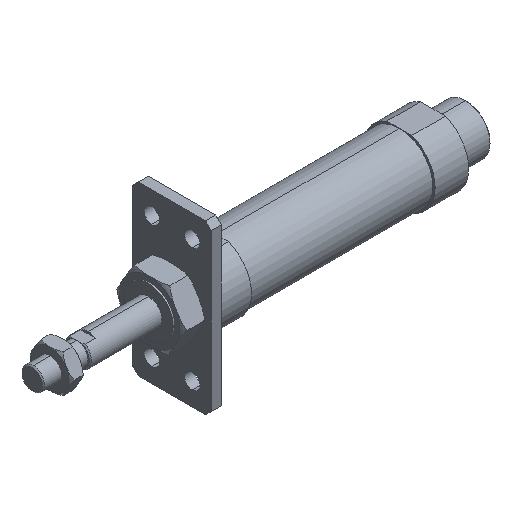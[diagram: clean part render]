
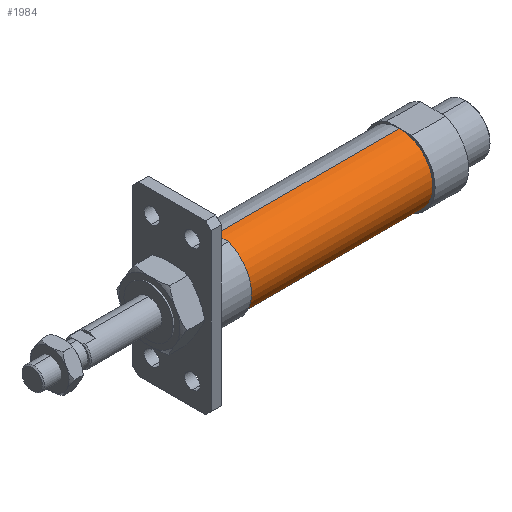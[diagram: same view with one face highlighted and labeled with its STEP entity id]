
A CAD part, isometric view. The second image highlights one B-rep face of the part: STEP entity #1984.
In plain terms, the highlighted cylindrical face has radius 15 mm (diameter 30 mm), a partial arc.
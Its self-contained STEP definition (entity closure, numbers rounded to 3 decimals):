
#38 = VERTEX_POINT ( 'NONE', #1992 ) ;
#266 = CARTESIAN_POINT ( 'NONE',  ( 164., 0., 0. ) ) ;
#269 = VERTEX_POINT ( 'NONE', #1749 ) ;
#274 = ORIENTED_EDGE ( 'NONE', *, *, #3400, .T. ) ;
#497 = VECTOR ( 'NONE', #1826, 1000. ) ;
#504 = DIRECTION ( 'NONE',  ( 0., 0., 1. ) ) ;
#518 = CARTESIAN_POINT ( 'NONE',  ( 164., 0., 15. ) ) ;
#964 = EDGE_CURVE ( 'NONE', #38, #2560, #2286, .T. ) ;
#1187 = DIRECTION ( 'NONE',  ( -1., 0., 0. ) ) ;
#1244 = ORIENTED_EDGE ( 'NONE', *, *, #1913, .T. ) ;
#1370 = VECTOR ( 'NONE', #3407, 1000. ) ;
#1429 = AXIS2_PLACEMENT_3D ( 'NONE', #2918, #2197, #2710 ) ;
#1490 = EDGE_LOOP ( 'NONE', ( #3747, #1244, #274, #2637 ) ) ;
#1615 = CIRCLE ( 'NONE', #1429, 15. ) ;
#1688 = DIRECTION ( 'NONE',  ( -1., 0., 0. ) ) ;
#1749 = CARTESIAN_POINT ( 'NONE',  ( 82., 0., 15. ) ) ;
#1826 = DIRECTION ( 'NONE',  ( -1., 0., 0. ) ) ;
#1913 = EDGE_CURVE ( 'NONE', #38, #3924, #3216, .T. ) ;
#1984 = ADVANCED_FACE ( 'NONE', ( #3531 ), #2830, .T. ) ;
#1992 = CARTESIAN_POINT ( 'NONE',  ( 164., 0., -15. ) ) ;
#2197 = DIRECTION ( 'NONE',  ( -1., 0., 0. ) ) ;
#2286 = LINE ( 'NONE', #2779, #497 ) ;
#2560 = VERTEX_POINT ( 'NONE', #3077 ) ;
#2576 = CARTESIAN_POINT ( 'NONE',  ( -6.469, 0., 0. ) ) ;
#2637 = ORIENTED_EDGE ( 'NONE', *, *, #3687, .F. ) ;
#2710 = DIRECTION ( 'NONE',  ( 0., 0., 1. ) ) ;
#2718 = DIRECTION ( 'NONE',  ( 0., 0., 1. ) ) ;
#2756 = AXIS2_PLACEMENT_3D ( 'NONE', #2576, #1187, #504 ) ;
#2779 = CARTESIAN_POINT ( 'NONE',  ( -6.469, 0., -15. ) ) ;
#2830 = CYLINDRICAL_SURFACE ( 'NONE', #2756, 15. ) ;
#2918 = CARTESIAN_POINT ( 'NONE',  ( 82., 0., 0. ) ) ;
#3020 = LINE ( 'NONE', #3463, #1370 ) ;
#3077 = CARTESIAN_POINT ( 'NONE',  ( 82., 0., -15. ) ) ;
#3216 = CIRCLE ( 'NONE', #3574, 15. ) ;
#3400 = EDGE_CURVE ( 'NONE', #3924, #269, #3020, .T. ) ;
#3407 = DIRECTION ( 'NONE',  ( -1., 0., 0. ) ) ;
#3463 = CARTESIAN_POINT ( 'NONE',  ( -6.469, 0., 15. ) ) ;
#3531 = FACE_OUTER_BOUND ( 'NONE', #1490, .T. ) ;
#3574 = AXIS2_PLACEMENT_3D ( 'NONE', #266, #1688, #2718 ) ;
#3687 = EDGE_CURVE ( 'NONE', #2560, #269, #1615, .T. ) ;
#3747 = ORIENTED_EDGE ( 'NONE', *, *, #964, .F. ) ;
#3924 = VERTEX_POINT ( 'NONE', #518 ) ;
